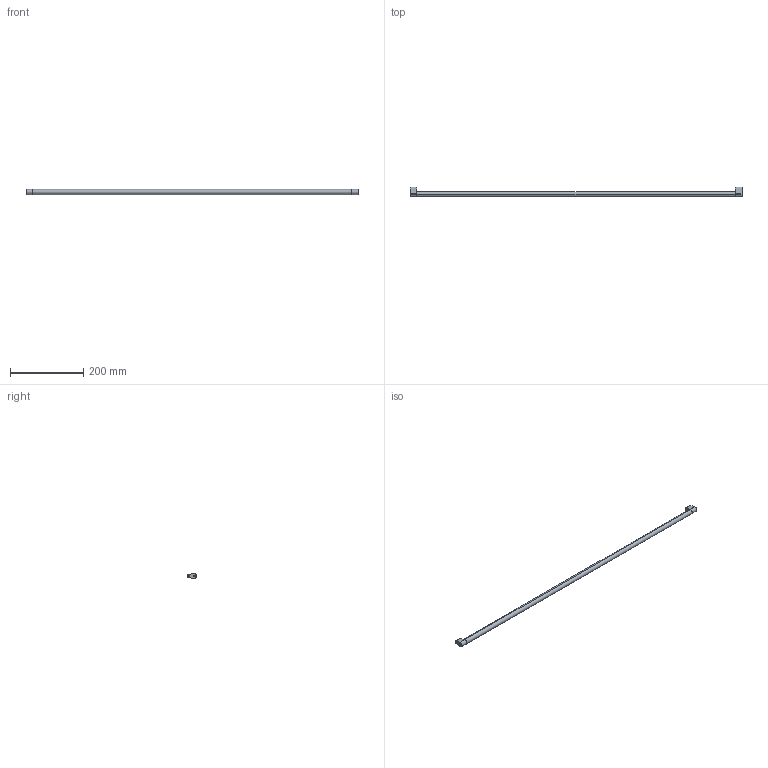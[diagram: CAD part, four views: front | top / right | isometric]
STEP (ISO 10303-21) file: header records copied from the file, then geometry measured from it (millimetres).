
FILE_DESCRIPTION (( 'STEP AP214' ), '1' );
FILE_NAME ('_Synchronisationseinheit DWD XP KAB1000_S16.step', '2010-07-08T13:58:20', ( 'grass' ), ( '' ), 'SwSTEP 2.0', 'SolidWorks 2010', '' );
FILE_SCHEMA (( 'AUTOMOTIVE_DESIGN' ));
Length unit declared in the file: millimetre
Products named in the file (1): _Synchronisationseinheit DWD XP KAB1000_S16
Bounding box: 907 x 26.5 x 14 mm (x, y, z)
Volume: 143308.6 mm3; surface area: 42738.9 mm2
Topology: 3 solids, 3 shells, 36 faces, 78 edges, 52 vertices
Faces by surface type: cylinder 18, plane 18
Entity records: 1050 total; most frequent: DIRECTION 188, CARTESIAN_POINT 167, ORIENTED_EDGE 156, EDGE_CURVE 78, AXIS2_PLACEMENT_3D 73, VERTEX_POINT 52, LINE 42, VECTOR 42
